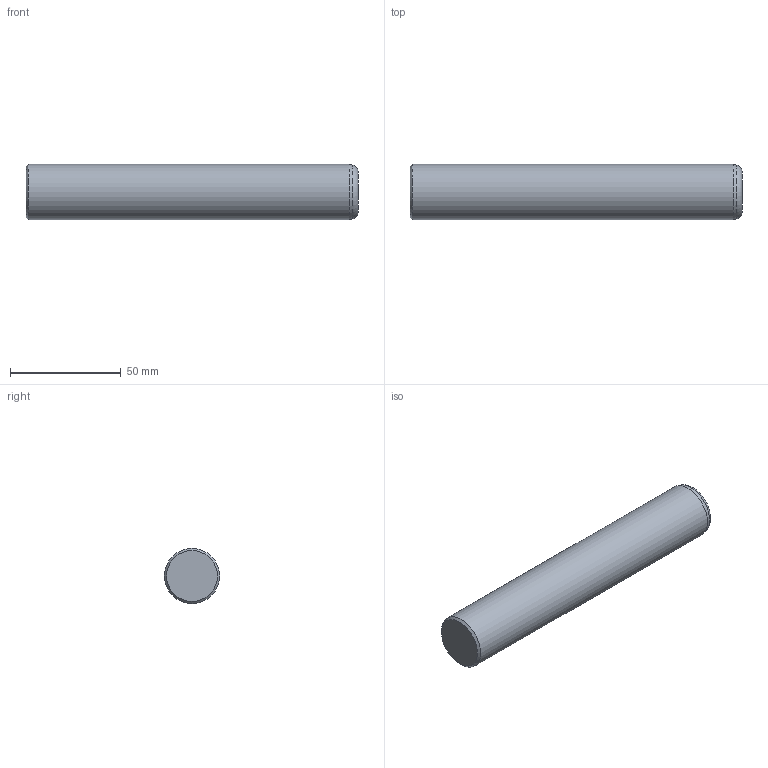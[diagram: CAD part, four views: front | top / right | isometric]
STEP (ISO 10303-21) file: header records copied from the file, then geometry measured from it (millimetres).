
FILE_DESCRIPTION(/* description */ ('Impex Ready, www.impex-ready.pl'),/* implementation_level */ '2;1');
FILE_NAME(/* name */ 'C:\Users\VIKKY\Nextcloud\SM\projekt 10 - części na stronę internetową\Pliki_3D_new\256 CIS Słup\256 CIS_STEP\CIS25150.ipt.step',/* time_stamp */ '2021-12-20T12:42:08+01:00',/* author */ ('SM'),/* organization */ (''),/* preprocessor_version */ 'ST-DEVELOPER v18.1',/* originating_system */ 'Autodesk Inventor 2021',/* authorisation */ '');
FILE_SCHEMA (('AUTOMOTIVE_DESIGN { 1 0 10303 214 3 1 1 }'));
Length unit declared in the file: millimetre
Products named in the file (1): CIS25150
Bounding box: 150 x 25 x 25 mm (x, y, z)
Volume: 73365.9 mm3; surface area: 12583 mm2
Topology: 1 solids, 1 shells, 6 faces, 12 edges, 8 vertices
Faces by surface type: cone 2, plane 2, torus 1, cylinder 1
Full cylindrical faces by diameter (mm): 25 x1
Entity records: 239 total; most frequent: DIRECTION 35, CARTESIAN_POINT 27, ORIENTED_EDGE 24, AXIS2_PLACEMENT_3D 16, EDGE_CURVE 12, CIRCLE 9, VERTEX_POINT 8, STYLED_ITEM 7
